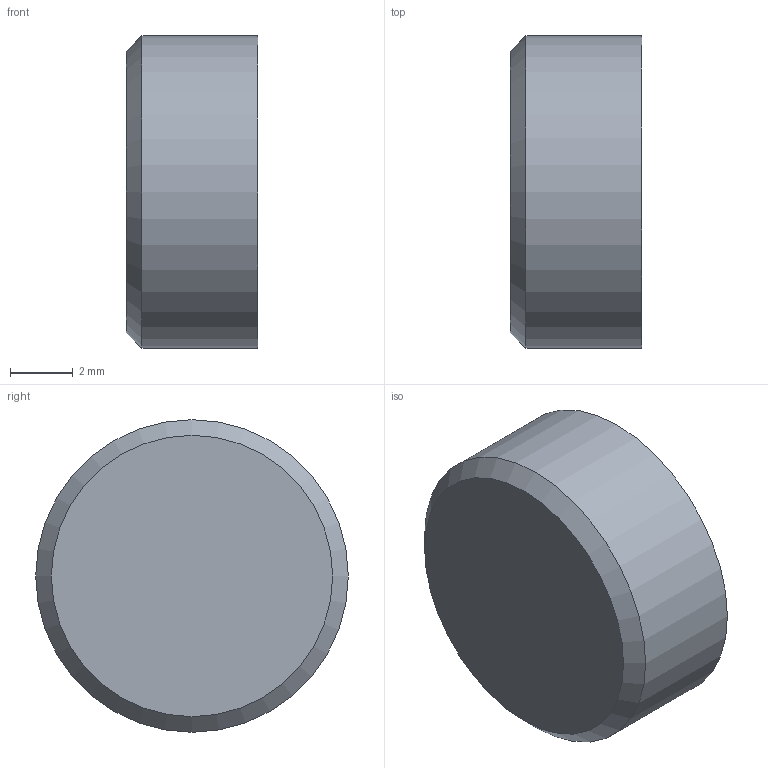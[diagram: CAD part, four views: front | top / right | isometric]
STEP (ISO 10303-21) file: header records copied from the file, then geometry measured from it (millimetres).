
FILE_DESCRIPTION(('Open CASCADE Model'),'2;1');
FILE_NAME('Open CASCADE Shape Model','2026-09-29T12:48:04',('Author'),( 'Open CASCADE'),'Open CASCADE STEP processor 7.9','Open CASCADE 7.9' ,'Unknown');
FILE_SCHEMA(('AUTOMOTIVE_DESIGN { 1 0 10303 214 1 1 1 1 }'));
Length unit declared in the file: millimetre
Products named in the file (1): Open CASCADE STEP translator 7.9 21
Bounding box: 4.2 x 10 x 10 mm (x, y, z)
Volume: 326.1 mm3; surface area: 279.5 mm2
Topology: 1 solids, 1 shells, 4 faces, 5 edges, 3 vertices
Faces by surface type: plane 2, cylinder 1, cone 1
Full cylindrical faces by diameter (mm): 10 x1
Entity records: 157 total; most frequent: DIRECTION 26, CARTESIAN_POINT 25, ORIENTED_EDGE 10, PCURVE 10, DEFINITIONAL_REPRESENTATION 10, AXIS2_PLACEMENT_3D 8, LINE 8, VECTOR 8
